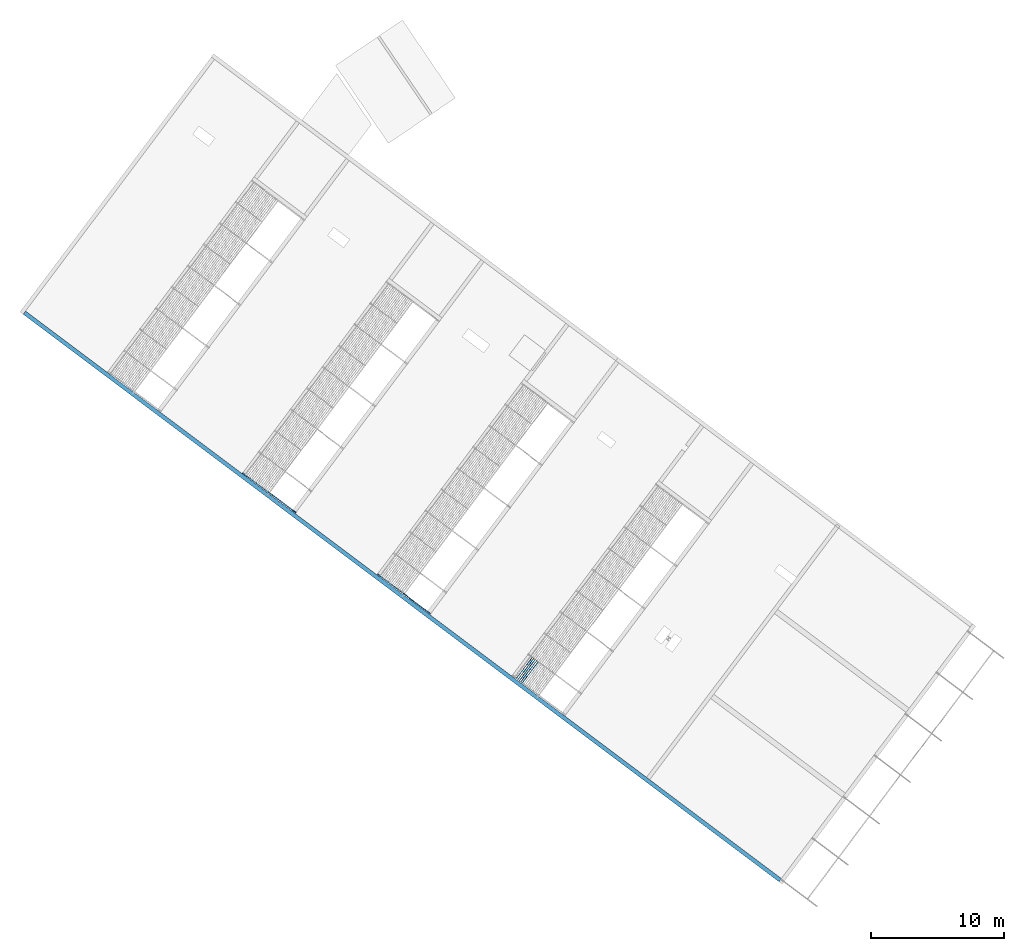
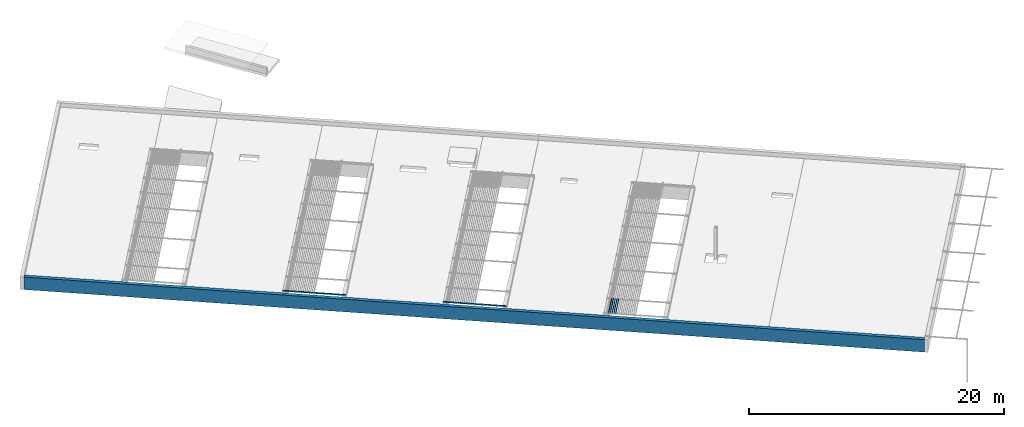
# One storey, part 2 of 95: 8 beams.
"""IFC2X3 building model written with IfcOpenShell, lengths in metres."""

from ifc_helpers import new_model, entity, si_unit, converted_unit, derived_unit, direction, frame, frame_2d, origin, place, context, subcontext, project, spatial, polyline, circle_curve, parameter, trimmed, segment, composite_curve, rectangle, outline, extrude, material, type_object, element, save


model = new_model("IFC2X3")

# Units and contexts
model_context = context("Model", 3, precision=1e-05, world=origin(), true_north=direction((6.123031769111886e-17, 1.0)))
body_context = subcontext(model_context, "Body", "Model", "MODEL_VIEW")
ifc_project = project(units=[si_unit("LENGTHUNIT", "METRE"), si_unit("AREAUNIT", "SQUARE_METRE"), si_unit("VOLUMEUNIT", "CUBIC_METRE"), converted_unit("PLANEANGLEUNIT", "DEGREE", entity("IfcRatioMeasure", 0.017453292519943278), si_unit("PLANEANGLEUNIT", "RADIAN"), dimensions=[0, 0, 0, 0, 0, 0, 0]), si_unit("MASSUNIT", "GRAM", prefix="KILO"), derived_unit("MASSDENSITYUNIT", [(si_unit("MASSUNIT", "GRAM", prefix="KILO"), 1), (si_unit("LENGTHUNIT", "METRE"), -3)]), derived_unit("IONCONCENTRATIONUNIT", [(si_unit("MASSUNIT", "GRAM", prefix="KILO"), 1), (si_unit("LENGTHUNIT", "METRE"), -3)]), derived_unit("MOMENTOFINERTIAUNIT", [(si_unit("LENGTHUNIT", "METRE"), 4)]), si_unit("TIMEUNIT", "SECOND"), si_unit("FREQUENCYUNIT", "HERTZ"), si_unit("THERMODYNAMICTEMPERATUREUNIT", "DEGREE_CELSIUS"), derived_unit("THERMALTRANSMITTANCEUNIT", [(si_unit("MASSUNIT", "GRAM", prefix="KILO"), 1), (si_unit("THERMODYNAMICTEMPERATUREUNIT", "KELVIN"), -1), (si_unit("TIMEUNIT", "SECOND"), -3)]), derived_unit("THERMALCONDUCTANCEUNIT", [(si_unit("MASSUNIT", "GRAM", prefix="KILO"), 1), (si_unit("THERMODYNAMICTEMPERATUREUNIT", "KELVIN"), -1), (si_unit("TIMEUNIT", "SECOND"), -3), (si_unit("LENGTHUNIT", "METRE"), 1)]), derived_unit("VOLUMETRICFLOWRATEUNIT", [(si_unit("LENGTHUNIT", "METRE"), 3), (si_unit("TIMEUNIT", "SECOND"), -1)]), derived_unit("MASSFLOWRATEUNIT", [(si_unit("MASSUNIT", "GRAM", prefix="KILO"), 1), (si_unit("TIMEUNIT", "SECOND"), -1)]), derived_unit("ROTATIONALFREQUENCYUNIT", [(si_unit("TIMEUNIT", "SECOND"), -1)]), si_unit("ELECTRICCURRENTUNIT", "AMPERE"), si_unit("ELECTRICVOLTAGEUNIT", "VOLT"), si_unit("POWERUNIT", "WATT"), si_unit("FORCEUNIT", "NEWTON", prefix="KILO"), si_unit("ILLUMINANCEUNIT", "LUX"), si_unit("LUMINOUSFLUXUNIT", "LUMEN"), si_unit("LUMINOUSINTENSITYUNIT", "CANDELA"), derived_unit("USERDEFINED", [(si_unit("MASSUNIT", "GRAM", prefix="KILO"), -1), (si_unit("LENGTHUNIT", "METRE"), -2), (si_unit("TIMEUNIT", "SECOND"), 3), (si_unit("LUMINOUSFLUXUNIT", "LUMEN"), 1)]), derived_unit("USERDEFINED", [(si_unit("MASSUNIT", "GRAM", prefix="KILO"), 1), (si_unit("TIMEUNIT", "SECOND"), -3), (si_unit("LENGTHUNIT", "METRE"), 3), (si_unit("ELECTRICCURRENTUNIT", "AMPERE"), -2)]), derived_unit("SOUNDPOWERUNIT", [(si_unit("MASSUNIT", "GRAM", prefix="KILO"), 1), (si_unit("TIMEUNIT", "SECOND"), -3), (si_unit("LENGTHUNIT", "METRE"), 2)]), derived_unit("SOUNDPRESSUREUNIT", [(si_unit("MASSUNIT", "GRAM", prefix="KILO"), 1), (si_unit("LENGTHUNIT", "METRE"), -1), (si_unit("TIMEUNIT", "SECOND"), -2)]), derived_unit("LINEARVELOCITYUNIT", [(si_unit("LENGTHUNIT", "METRE"), 1), (si_unit("TIMEUNIT", "SECOND"), -1)]), si_unit("PRESSUREUNIT", "PASCAL"), derived_unit("USERDEFINED", [(si_unit("MASSUNIT", "GRAM", prefix="KILO"), 1), (si_unit("LENGTHUNIT", "METRE"), -2), (si_unit("TIMEUNIT", "SECOND"), -2)]), derived_unit("LINEARFORCEUNIT", [(si_unit("MASSUNIT", "GRAM", prefix="KILO"), 1), (si_unit("TIMEUNIT", "SECOND"), -2)]), derived_unit("PLANARFORCEUNIT", [(si_unit("MASSUNIT", "GRAM", prefix="KILO"), 1), (si_unit("LENGTHUNIT", "METRE"), -1), (si_unit("TIMEUNIT", "SECOND"), -2)]), derived_unit("SPECIFICHEATCAPACITYUNIT", [(si_unit("THERMODYNAMICTEMPERATUREUNIT", "KELVIN"), -1), (si_unit("LENGTHUNIT", "METRE"), 2), (si_unit("TIMEUNIT", "SECOND"), -2)]), derived_unit("HEATINGVALUEUNIT", [(si_unit("LENGTHUNIT", "METRE"), 2), (si_unit("TIMEUNIT", "SECOND"), -2)]), derived_unit("VAPORPERMEABILITYUNIT", [(si_unit("LENGTHUNIT", "METRE"), -1), (si_unit("TIMEUNIT", "SECOND"), 1)]), derived_unit("DYNAMICVISCOSITYUNIT", [(si_unit("MASSUNIT", "GRAM", prefix="KILO"), 1), (si_unit("TIMEUNIT", "SECOND"), -1), (si_unit("LENGTHUNIT", "METRE"), -1)]), derived_unit("THERMALEXPANSIONCOEFFICIENTUNIT", [(si_unit("THERMODYNAMICTEMPERATUREUNIT", "KELVIN"), -1)]), derived_unit("MODULUSOFELASTICITYUNIT", [(si_unit("MASSUNIT", "GRAM", prefix="KILO"), 1), (si_unit("LENGTHUNIT", "METRE"), -1), (si_unit("TIMEUNIT", "SECOND"), -2)]), derived_unit("ISOTHERMALMOISTURECAPACITYUNIT", [(si_unit("LENGTHUNIT", "METRE"), 3), (si_unit("MASSUNIT", "GRAM", prefix="KILO"), -1)]), derived_unit("MOISTUREDIFFUSIVITYUNIT", [(si_unit("TIMEUNIT", "SECOND"), -1), (si_unit("LENGTHUNIT", "METRE"), 2)])], contexts=[model_context])

# Site, building, storey
site_placement = place(None, origin())
site = spatial("IfcSite", under=ifc_project, at=site_placement, Name="Default", CompositionType="ELEMENT")
building_placement = place(site_placement, frame((0.0, 0.0, 235.0), z_axis=(0.0, 0.0, 1.0), x_axis=(-0.7996477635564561, 0.6004693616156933, 0.0)))
building = spatial("IfcBuilding", under=site, at=building_placement, CompositionType="ELEMENT")
storey_placement = place(building_placement, frame((0.0, 0.0, 3.400000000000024)))
storey = spatial("IfcBuildingStorey", under=building, at=storey_placement, Name="PC- Coberta STR", CompositionType="ELEMENT", Elevation=3.400000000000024)

# Beams
ifc_material_1 = material(Name="_Formigó- T1- STR")
beam_type_1 = type_object("IfcBeamType", Name="STR- V- Formigó- Rectangular- T1:30x120 cm", PredefinedType="NOTDEFINED")
beam_1_placement = place(storey_placement, frame((3.0951476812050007, -18.19019175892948, 0.4)))
element("IfcBeam", 1, at=beam_1_placement, inside=storey, type_object=beam_type_1, material=ifc_material_1, Name="STR- V- Formigó- Rectangular- T1:30x120 cm", ObjectType="STR- V- Formigó- Rectangular- T1:30x120 cm", context=body_context, shape_type="SweptSolid", body=[
    extrude(rectangle(XDim=1.1999999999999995, YDim=0.30000000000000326, at=frame_2d((0.0, 2.891298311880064e-13), x_axis=(1.0, 0.0))), frame((0.14999999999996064, 0.0, -0.6000000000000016), z_axis=(1.0, 0.0, 0.0), x_axis=(0.0, 0.0, -1.0)), (0.0, 0.0, 1.0), 71.19999999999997),
])
ifc_material_2 = material(Name="_Acer- STR")
beam_type_2 = type_object("IfcBeamType", Name="STR- V- Acer- RHS- Rectangular- T1:120x60RHS", PredefinedType="NOTDEFINED")
beam_2_placement = place(storey_placement, frame((36.34514768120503, -18.446787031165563, 0.49840472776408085), z_axis=(0.0, 0.0, 1.0), x_axis=(-1.0, 0.0, 0.0)))
element("IfcBeam", 2, at=beam_2_placement, inside=storey, type_object=beam_type_2, material=ifc_material_2, Name="STR- V- Acer- RHS- Rectangular- T1:120x60RHS", ObjectType="STR- V- Acer- RHS- Rectangular- T1:120x60RHS", context=body_context, shape_type="SweptSolid", body=[
    extrude(outline(composite_curve([segment(trimmed(circle_curve(frame_2d((-0.02200000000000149, -0.05200000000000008), x_axis=(1.0, 0.0)), 0.008), [parameter(180.0000000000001)], [parameter(269.99999999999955)], True, "PARAMETER"), True, "CONTINUOUS"), segment(polyline([(-0.02200000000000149, -0.05999999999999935), (0.021999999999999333, -0.05999999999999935)]), True, "CONTINUOUS"), segment(trimmed(circle_curve(frame_2d((0.021999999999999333, -0.05200000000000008), x_axis=(1.0, 0.0)), 0.008), [parameter(269.99999999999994)], [parameter(5.088887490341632e-14)], True, "PARAMETER"), True, "CONTINUOUS"), segment(polyline([(0.029999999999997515, -0.05199999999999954), (0.029999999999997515, 0.052000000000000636)]), True, "CONTINUOUS"), segment(trimmed(circle_curve(frame_2d((0.021999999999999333, 0.052000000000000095), x_axis=(1.0, 0.0)), 0.008), [parameter(359.99999999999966)], [parameter(89.99999999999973)], True, "PARAMETER"), True, "CONTINUOUS"), segment(polyline([(0.021999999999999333, 0.06000000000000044), (-0.02200000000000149, 0.06000000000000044)]), True, "CONTINUOUS"), segment(trimmed(circle_curve(frame_2d((-0.02200000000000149, 0.052000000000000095), x_axis=(1.0, 0.0)), 0.008), [parameter(90.00000000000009)], [parameter(180.00000000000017)], True, "PARAMETER"), True, "CONTINUOUS"), segment(polyline([(-0.03000000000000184, 0.052000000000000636), (-0.03000000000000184, -0.05199999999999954)]), True, "CONTINUOUS")], self_intersect=False), holes=[composite_curve([segment(polyline([(0.021999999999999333, -0.056000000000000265), (-0.02200000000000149, -0.056000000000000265)]), True, "CONTINUOUS"), segment(trimmed(circle_curve(frame_2d((-0.02200000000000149, -0.05200000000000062), x_axis=(1.0, 0.0)), 0.004), [parameter(179.99999999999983)], [parameter(269.9999999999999)], True, "PARAMETER"), False, "CONTINUOUS"), segment(polyline([(-0.026000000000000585, -0.05200000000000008), (-0.026000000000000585, 0.051999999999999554)]), True, "CONTINUOUS"), segment(trimmed(circle_curve(frame_2d((-0.02200000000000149, 0.05199999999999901), x_axis=(1.0, 0.0)), 0.004), [parameter(90.00000000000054)], [parameter(180.00000000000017)], True, "PARAMETER"), False, "CONTINUOUS"), segment(polyline([(-0.02200000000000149, 0.055999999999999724), (0.021999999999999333, 0.055999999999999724)]), True, "CONTINUOUS"), segment(trimmed(circle_curve(frame_2d((0.021999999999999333, 0.05199999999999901), x_axis=(1.0, 0.0)), 0.004), [parameter(0.0)], [parameter(90.00000000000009)], True, "PARAMETER"), False, "CONTINUOUS"), segment(polyline([(0.025999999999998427, 0.051999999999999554), (0.025999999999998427, -0.05200000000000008)]), True, "CONTINUOUS"), segment(trimmed(circle_curve(frame_2d((0.021999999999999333, -0.05200000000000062), x_axis=(1.0, 0.0)), 0.004), [parameter(270.00000000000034)], [parameter(3.5622212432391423e-13)], True, "PARAMETER"), False, "CONTINUOUS")], self_intersect=False)]), frame((-5.0, -0.03159527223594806, 0.061595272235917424), z_axis=(1.0, 0.0, 0.0), x_axis=(0.0, -1.0, 0.0)), (0.0, 0.0, 1.0), 4.999999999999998),
])
beam_3_placement = place(storey_placement, frame((49.04514768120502, -18.44678703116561, 0.49840472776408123), z_axis=(0.0, 0.0, 1.0), x_axis=(-1.0, 0.0, 0.0)))
element("IfcBeam", 3, at=beam_3_placement, inside=storey, type_object=beam_type_2, material=ifc_material_2, Name="STR- V- Acer- RHS- Rectangular- T1:120x60RHS", ObjectType="STR- V- Acer- RHS- Rectangular- T1:120x60RHS", context=body_context, shape_type="SweptSolid", body=[
    extrude(outline(composite_curve([segment(trimmed(circle_curve(frame_2d((-0.021999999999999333, -0.05200000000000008), x_axis=(1.0, 0.0)), 0.008), [parameter(180.0000000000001)], [parameter(269.99999999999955)], True, "PARAMETER"), True, "CONTINUOUS"), segment(polyline([(-0.021999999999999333, -0.05999999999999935), (0.022000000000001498, -0.05999999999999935)]), True, "CONTINUOUS"), segment(trimmed(circle_curve(frame_2d((0.022000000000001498, -0.05200000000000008), x_axis=(1.0, 0.0)), 0.008), [parameter(269.99999999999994)], [parameter(5.088887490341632e-14)], True, "PARAMETER"), True, "CONTINUOUS"), segment(polyline([(0.02999999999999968, -0.05199999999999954), (0.02999999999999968, 0.052000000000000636)]), True, "CONTINUOUS"), segment(trimmed(circle_curve(frame_2d((0.022000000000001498, 0.052000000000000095), x_axis=(1.0, 0.0)), 0.008), [parameter(359.99999999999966)], [parameter(89.99999999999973)], True, "PARAMETER"), True, "CONTINUOUS"), segment(polyline([(0.022000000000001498, 0.06000000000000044), (-0.021999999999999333, 0.06000000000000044)]), True, "CONTINUOUS"), segment(trimmed(circle_curve(frame_2d((-0.021999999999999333, 0.052000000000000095), x_axis=(1.0, 0.0)), 0.008), [parameter(90.00000000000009)], [parameter(180.00000000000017)], True, "PARAMETER"), True, "CONTINUOUS"), segment(polyline([(-0.029999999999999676, 0.052000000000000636), (-0.029999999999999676, -0.05199999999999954)]), True, "CONTINUOUS")], self_intersect=False), holes=[composite_curve([segment(polyline([(0.022000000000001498, -0.056000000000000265), (-0.021999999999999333, -0.056000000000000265)]), True, "CONTINUOUS"), segment(trimmed(circle_curve(frame_2d((-0.021999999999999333, -0.05200000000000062), x_axis=(1.0, 0.0)), 0.004), [parameter(179.99999999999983)], [parameter(269.9999999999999)], True, "PARAMETER"), False, "CONTINUOUS"), segment(polyline([(-0.02599999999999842, -0.05200000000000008), (-0.02599999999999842, 0.051999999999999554)]), True, "CONTINUOUS"), segment(trimmed(circle_curve(frame_2d((-0.021999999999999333, 0.05199999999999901), x_axis=(1.0, 0.0)), 0.004), [parameter(90.00000000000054)], [parameter(180.00000000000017)], True, "PARAMETER"), False, "CONTINUOUS"), segment(polyline([(-0.021999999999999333, 0.055999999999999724), (0.022000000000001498, 0.055999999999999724)]), True, "CONTINUOUS"), segment(trimmed(circle_curve(frame_2d((0.022000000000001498, 0.05199999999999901), x_axis=(1.0, 0.0)), 0.004), [parameter(0.0)], [parameter(90.00000000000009)], True, "PARAMETER"), False, "CONTINUOUS"), segment(polyline([(0.026000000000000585, 0.051999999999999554), (0.026000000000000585, -0.05200000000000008)]), True, "CONTINUOUS"), segment(trimmed(circle_curve(frame_2d((0.022000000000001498, -0.05200000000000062), x_axis=(1.0, 0.0)), 0.004), [parameter(270.00000000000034)], [parameter(3.5622212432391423e-13)], True, "PARAMETER"), False, "CONTINUOUS")], self_intersect=False)]), frame((-5.0, -0.0315952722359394, 0.061595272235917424), z_axis=(1.0, 0.0, 0.0), x_axis=(0.0, -1.0, 0.0)), (0.0, 0.0, 1.0), 5.000000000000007),
])
beam_type_3 = type_object("IfcBeamType", Name="STR- V- Acer- RHS- Rectangular- T1:120x40RHS -", PredefinedType="NOTDEFINED")
beam_4_placement = place(storey_placement, frame((28.233552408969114, -20.385189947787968, 0.49840472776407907), z_axis=(0.0, 0.0, 1.0), x_axis=(0.0, -1.0, 0.0)))
element("IfcBeam", 4, at=beam_4_placement, inside=storey, type_object=beam_type_3, material=ifc_material_2, Name="STR- V- Acer- RHS- Rectangular- T1:120x40RHS -", ObjectType="STR- V- Acer- RHS- Rectangular- T1:120x40RHS -", context=body_context, shape_type="SweptSolid", body=[
    extrude(outline(composite_curve([segment(trimmed(circle_curve(frame_2d((-0.01400000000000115, -0.05400000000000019), x_axis=(1.0, 0.0)), 0.006), [parameter(180.0000000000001)], [parameter(269.99999999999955)], True, "PARAMETER"), True, "CONTINUOUS"), segment(polyline([(-0.01400000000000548, -0.06000000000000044), (0.013999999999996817, -0.06000000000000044)]), True, "CONTINUOUS"), segment(trimmed(circle_curve(frame_2d((0.013999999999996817, -0.05400000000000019), x_axis=(1.0, 0.0)), 0.006), [parameter(269.99999999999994)], [parameter(1.0177774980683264e-13)], True, "PARAMETER"), True, "CONTINUOUS"), segment(polyline([(0.019999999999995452, -0.05400000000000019), (0.019999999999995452, 0.05399999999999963)]), True, "CONTINUOUS"), segment(trimmed(circle_curve(frame_2d((0.013999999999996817, 0.05399999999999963), x_axis=(1.0, 0.0)), 0.006), [parameter(359.9999999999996)], [parameter(89.99999999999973)], True, "PARAMETER"), True, "CONTINUOUS"), segment(polyline([(0.013999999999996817, 0.05999999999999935), (-0.01400000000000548, 0.05999999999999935)]), True, "CONTINUOUS"), segment(trimmed(circle_curve(frame_2d((-0.01400000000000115, 0.05399999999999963), x_axis=(1.0, 0.0)), 0.006), [parameter(90.00000000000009)], [parameter(180.00000000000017)], True, "PARAMETER"), True, "CONTINUOUS"), segment(polyline([(-0.02000000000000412, 0.05399999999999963), (-0.02000000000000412, -0.05400000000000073)]), True, "CONTINUOUS")], self_intersect=False), holes=[composite_curve([segment(polyline([(0.013999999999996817, -0.05700000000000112), (-0.01400000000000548, -0.05700000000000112)]), True, "CONTINUOUS"), segment(trimmed(circle_curve(frame_2d((-0.01400000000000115, -0.05400000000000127), x_axis=(1.0, 0.0)), 0.003), [parameter(179.99999999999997)], [parameter(269.9999999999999)], True, "PARAMETER"), False, "CONTINUOUS"), segment(polyline([(-0.017000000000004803, -0.05400000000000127), (-0.017000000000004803, 0.05399999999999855)]), True, "CONTINUOUS"), segment(trimmed(circle_curve(frame_2d((-0.01400000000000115, 0.05399999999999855), x_axis=(1.0, 0.0)), 0.003), [parameter(90.00000000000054)], [parameter(180.0000000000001)], True, "PARAMETER"), False, "CONTINUOUS"), segment(polyline([(-0.01400000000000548, 0.05699999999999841), (0.013999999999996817, 0.05699999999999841)]), True, "CONTINUOUS"), segment(trimmed(circle_curve(frame_2d((0.013999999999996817, 0.05399999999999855), x_axis=(1.0, 0.0)), 0.003), [parameter(0.0)], [parameter(90.00000000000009)], True, "PARAMETER"), False, "CONTINUOUS"), segment(polyline([(0.016999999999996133, 0.05399999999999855), (0.016999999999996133, -0.05400000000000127)]), True, "CONTINUOUS"), segment(trimmed(circle_curve(frame_2d((0.013999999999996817, -0.05400000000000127), x_axis=(1.0, 0.0)), 0.003), [parameter(270.00000000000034)], [parameter(3.053332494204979e-13)], True, "PARAMETER"), False, "CONTINUOUS")], self_intersect=False)]), frame((-1.940000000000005, 0.02159527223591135, 0.06159527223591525), z_axis=(1.0, 0.0, 0.0), x_axis=(0.0, -1.0, 0.0)), (0.0, 0.0, 1.0), 1.9400000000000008),
])
beam_5_placement = place(storey_placement, frame((28.093552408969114, -20.385189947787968, 0.49840472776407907), z_axis=(0.0, 0.0, 1.0), x_axis=(0.0, -1.0, 0.0)))
element("IfcBeam", 5, at=beam_5_placement, inside=storey, type_object=beam_type_3, material=ifc_material_2, Name="STR- V- Acer- RHS- Rectangular- T1:120x40RHS -", ObjectType="STR- V- Acer- RHS- Rectangular- T1:120x40RHS -", context=body_context, shape_type="SweptSolid", body=[
    extrude(outline(composite_curve([segment(trimmed(circle_curve(frame_2d((-0.01400000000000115, -0.05400000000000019), x_axis=(1.0, 0.0)), 0.006), [parameter(180.0000000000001)], [parameter(269.99999999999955)], True, "PARAMETER"), True, "CONTINUOUS"), segment(polyline([(-0.01400000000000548, -0.06000000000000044), (0.013999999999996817, -0.06000000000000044)]), True, "CONTINUOUS"), segment(trimmed(circle_curve(frame_2d((0.013999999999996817, -0.05400000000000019), x_axis=(1.0, 0.0)), 0.006), [parameter(269.99999999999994)], [parameter(1.0177774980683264e-13)], True, "PARAMETER"), True, "CONTINUOUS"), segment(polyline([(0.019999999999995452, -0.05400000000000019), (0.019999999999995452, 0.05399999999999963)]), True, "CONTINUOUS"), segment(trimmed(circle_curve(frame_2d((0.013999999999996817, 0.05399999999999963), x_axis=(1.0, 0.0)), 0.006), [parameter(359.9999999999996)], [parameter(89.99999999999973)], True, "PARAMETER"), True, "CONTINUOUS"), segment(polyline([(0.013999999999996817, 0.05999999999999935), (-0.01400000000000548, 0.05999999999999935)]), True, "CONTINUOUS"), segment(trimmed(circle_curve(frame_2d((-0.01400000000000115, 0.05399999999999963), x_axis=(1.0, 0.0)), 0.006), [parameter(90.00000000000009)], [parameter(180.00000000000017)], True, "PARAMETER"), True, "CONTINUOUS"), segment(polyline([(-0.02000000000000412, 0.05399999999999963), (-0.02000000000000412, -0.05400000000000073)]), True, "CONTINUOUS")], self_intersect=False), holes=[composite_curve([segment(polyline([(0.013999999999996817, -0.05700000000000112), (-0.01400000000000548, -0.05700000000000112)]), True, "CONTINUOUS"), segment(trimmed(circle_curve(frame_2d((-0.01400000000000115, -0.05400000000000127), x_axis=(1.0, 0.0)), 0.003), [parameter(179.99999999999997)], [parameter(269.9999999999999)], True, "PARAMETER"), False, "CONTINUOUS"), segment(polyline([(-0.017000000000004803, -0.05400000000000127), (-0.017000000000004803, 0.05399999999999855)]), True, "CONTINUOUS"), segment(trimmed(circle_curve(frame_2d((-0.01400000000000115, 0.05399999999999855), x_axis=(1.0, 0.0)), 0.003), [parameter(90.00000000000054)], [parameter(180.0000000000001)], True, "PARAMETER"), False, "CONTINUOUS"), segment(polyline([(-0.01400000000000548, 0.05699999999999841), (0.013999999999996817, 0.05699999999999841)]), True, "CONTINUOUS"), segment(trimmed(circle_curve(frame_2d((0.013999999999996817, 0.05399999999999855), x_axis=(1.0, 0.0)), 0.003), [parameter(0.0)], [parameter(90.00000000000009)], True, "PARAMETER"), False, "CONTINUOUS"), segment(polyline([(0.016999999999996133, 0.05399999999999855), (0.016999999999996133, -0.05400000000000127)]), True, "CONTINUOUS"), segment(trimmed(circle_curve(frame_2d((0.013999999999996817, -0.05400000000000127), x_axis=(1.0, 0.0)), 0.003), [parameter(270.00000000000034)], [parameter(3.053332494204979e-13)], True, "PARAMETER"), False, "CONTINUOUS")], self_intersect=False)]), frame((-1.940000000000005, 0.02159527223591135, 0.06159527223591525), z_axis=(1.0, 0.0, 0.0), x_axis=(0.0, -1.0, 0.0)), (0.0, 0.0, 1.0), 1.9400000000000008),
])
beam_6_placement = place(storey_placement, frame((27.953552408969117, -20.385189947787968, 0.49840472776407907), z_axis=(0.0, 0.0, 1.0), x_axis=(0.0, -1.0, 0.0)))
element("IfcBeam", 6, at=beam_6_placement, inside=storey, type_object=beam_type_3, material=ifc_material_2, Name="STR- V- Acer- RHS- Rectangular- T1:120x40RHS -", ObjectType="STR- V- Acer- RHS- Rectangular- T1:120x40RHS -", context=body_context, shape_type="SweptSolid", body=[
    extrude(outline(composite_curve([segment(trimmed(circle_curve(frame_2d((-0.013999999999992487, -0.05400000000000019), x_axis=(1.0, 0.0)), 0.006), [parameter(180.0000000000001)], [parameter(269.99999999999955)], True, "PARAMETER"), True, "CONTINUOUS"), segment(polyline([(-0.013999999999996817, -0.06000000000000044), (0.01400000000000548, -0.06000000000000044)]), True, "CONTINUOUS"), segment(trimmed(circle_curve(frame_2d((0.01400000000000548, -0.05400000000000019), x_axis=(1.0, 0.0)), 0.006), [parameter(269.99999999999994)], [parameter(1.0177774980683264e-13)], True, "PARAMETER"), True, "CONTINUOUS"), segment(polyline([(0.020000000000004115, -0.05400000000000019), (0.020000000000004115, 0.05399999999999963)]), True, "CONTINUOUS"), segment(trimmed(circle_curve(frame_2d((0.01400000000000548, 0.05399999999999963), x_axis=(1.0, 0.0)), 0.006), [parameter(359.9999999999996)], [parameter(89.99999999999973)], True, "PARAMETER"), True, "CONTINUOUS"), segment(polyline([(0.01400000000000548, 0.05999999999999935), (-0.013999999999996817, 0.05999999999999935)]), True, "CONTINUOUS"), segment(trimmed(circle_curve(frame_2d((-0.013999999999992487, 0.05399999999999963), x_axis=(1.0, 0.0)), 0.006), [parameter(90.00000000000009)], [parameter(180.00000000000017)], True, "PARAMETER"), True, "CONTINUOUS"), segment(polyline([(-0.019999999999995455, 0.05399999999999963), (-0.019999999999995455, -0.05400000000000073)]), True, "CONTINUOUS")], self_intersect=False), holes=[composite_curve([segment(polyline([(0.01400000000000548, -0.05700000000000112), (-0.013999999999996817, -0.05700000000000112)]), True, "CONTINUOUS"), segment(trimmed(circle_curve(frame_2d((-0.013999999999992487, -0.05400000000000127), x_axis=(1.0, 0.0)), 0.003), [parameter(179.99999999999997)], [parameter(269.9999999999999)], True, "PARAMETER"), False, "CONTINUOUS"), segment(polyline([(-0.01699999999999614, -0.05400000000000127), (-0.01699999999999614, 0.05399999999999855)]), True, "CONTINUOUS"), segment(trimmed(circle_curve(frame_2d((-0.013999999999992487, 0.05399999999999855), x_axis=(1.0, 0.0)), 0.003), [parameter(90.00000000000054)], [parameter(180.0000000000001)], True, "PARAMETER"), False, "CONTINUOUS"), segment(polyline([(-0.013999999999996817, 0.05699999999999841), (0.01400000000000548, 0.05699999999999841)]), True, "CONTINUOUS"), segment(trimmed(circle_curve(frame_2d((0.01400000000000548, 0.05399999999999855), x_axis=(1.0, 0.0)), 0.003), [parameter(0.0)], [parameter(90.00000000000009)], True, "PARAMETER"), False, "CONTINUOUS"), segment(polyline([(0.017000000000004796, 0.05399999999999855), (0.017000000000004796, -0.05400000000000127)]), True, "CONTINUOUS"), segment(trimmed(circle_curve(frame_2d((0.01400000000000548, -0.05400000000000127), x_axis=(1.0, 0.0)), 0.003), [parameter(270.00000000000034)], [parameter(3.053332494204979e-13)], True, "PARAMETER"), False, "CONTINUOUS")], self_intersect=False)]), frame((-1.940000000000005, 0.021595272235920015, 0.06159527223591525), z_axis=(1.0, 0.0, 0.0), x_axis=(0.0, -1.0, 0.0)), (0.0, 0.0, 1.0), 1.9400000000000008),
])
beam_7_placement = place(storey_placement, frame((27.813552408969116, -20.385189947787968, 0.49840472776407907), z_axis=(0.0, 0.0, 1.0), x_axis=(0.0, -1.0, 0.0)))
element("IfcBeam", 7, at=beam_7_placement, inside=storey, type_object=beam_type_3, material=ifc_material_2, Name="STR- V- Acer- RHS- Rectangular- T1:120x40RHS -", ObjectType="STR- V- Acer- RHS- Rectangular- T1:120x40RHS -", context=body_context, shape_type="SweptSolid", body=[
    extrude(outline(composite_curve([segment(trimmed(circle_curve(frame_2d((-0.013999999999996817, -0.05400000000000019), x_axis=(1.0, 0.0)), 0.006), [parameter(180.0000000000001)], [parameter(269.99999999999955)], True, "PARAMETER"), True, "CONTINUOUS"), segment(polyline([(-0.014000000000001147, -0.06000000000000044), (0.01400000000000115, -0.06000000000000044)]), True, "CONTINUOUS"), segment(trimmed(circle_curve(frame_2d((0.01400000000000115, -0.05400000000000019), x_axis=(1.0, 0.0)), 0.006), [parameter(269.99999999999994)], [parameter(1.0177774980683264e-13)], True, "PARAMETER"), True, "CONTINUOUS"), segment(polyline([(0.019999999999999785, -0.05400000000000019), (0.019999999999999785, 0.05399999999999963)]), True, "CONTINUOUS"), segment(trimmed(circle_curve(frame_2d((0.01400000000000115, 0.05399999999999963), x_axis=(1.0, 0.0)), 0.006), [parameter(359.9999999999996)], [parameter(89.99999999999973)], True, "PARAMETER"), True, "CONTINUOUS"), segment(polyline([(0.01400000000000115, 0.05999999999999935), (-0.014000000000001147, 0.05999999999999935)]), True, "CONTINUOUS"), segment(trimmed(circle_curve(frame_2d((-0.013999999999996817, 0.05399999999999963), x_axis=(1.0, 0.0)), 0.006), [parameter(90.00000000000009)], [parameter(180.00000000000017)], True, "PARAMETER"), True, "CONTINUOUS"), segment(polyline([(-0.019999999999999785, 0.05399999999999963), (-0.019999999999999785, -0.05400000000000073)]), True, "CONTINUOUS")], self_intersect=False), holes=[composite_curve([segment(polyline([(0.01400000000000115, -0.05700000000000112), (-0.014000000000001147, -0.05700000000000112)]), True, "CONTINUOUS"), segment(trimmed(circle_curve(frame_2d((-0.013999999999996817, -0.05400000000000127), x_axis=(1.0, 0.0)), 0.003), [parameter(179.99999999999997)], [parameter(269.9999999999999)], True, "PARAMETER"), False, "CONTINUOUS"), segment(polyline([(-0.01700000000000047, -0.05400000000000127), (-0.01700000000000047, 0.05399999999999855)]), True, "CONTINUOUS"), segment(trimmed(circle_curve(frame_2d((-0.013999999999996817, 0.05399999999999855), x_axis=(1.0, 0.0)), 0.003), [parameter(90.00000000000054)], [parameter(180.0000000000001)], True, "PARAMETER"), False, "CONTINUOUS"), segment(polyline([(-0.014000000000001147, 0.05699999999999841), (0.01400000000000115, 0.05699999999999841)]), True, "CONTINUOUS"), segment(trimmed(circle_curve(frame_2d((0.01400000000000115, 0.05399999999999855), x_axis=(1.0, 0.0)), 0.003), [parameter(0.0)], [parameter(90.00000000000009)], True, "PARAMETER"), False, "CONTINUOUS"), segment(polyline([(0.017000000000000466, 0.05399999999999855), (0.017000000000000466, -0.05400000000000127)]), True, "CONTINUOUS"), segment(trimmed(circle_curve(frame_2d((0.01400000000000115, -0.05400000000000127), x_axis=(1.0, 0.0)), 0.003), [parameter(270.00000000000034)], [parameter(3.053332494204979e-13)], True, "PARAMETER"), False, "CONTINUOUS")], self_intersect=False)]), frame((-1.940000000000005, 0.021595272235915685, 0.06159527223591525), z_axis=(1.0, 0.0, 0.0), x_axis=(0.0, -1.0, 0.0)), (0.0, 0.0, 1.0), 1.9400000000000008),
])
beam_8_placement = place(storey_placement, frame((27.67355240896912, -20.385189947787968, 0.49840472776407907), z_axis=(0.0, 0.0, 1.0), x_axis=(0.0, -1.0, 0.0)))
element("IfcBeam", 8, at=beam_8_placement, inside=storey, type_object=beam_type_3, material=ifc_material_2, Name="STR- V- Acer- RHS- Rectangular- T1:120x40RHS -", ObjectType="STR- V- Acer- RHS- Rectangular- T1:120x40RHS -", context=body_context, shape_type="SweptSolid", body=[
    extrude(outline(composite_curve([segment(trimmed(circle_curve(frame_2d((-0.013999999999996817, -0.05400000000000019), x_axis=(1.0, 0.0)), 0.006), [parameter(180.0000000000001)], [parameter(269.99999999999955)], True, "PARAMETER"), True, "CONTINUOUS"), segment(polyline([(-0.014000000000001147, -0.06000000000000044), (0.01400000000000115, -0.06000000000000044)]), True, "CONTINUOUS"), segment(trimmed(circle_curve(frame_2d((0.01400000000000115, -0.05400000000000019), x_axis=(1.0, 0.0)), 0.006), [parameter(269.99999999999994)], [parameter(1.0177774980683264e-13)], True, "PARAMETER"), True, "CONTINUOUS"), segment(polyline([(0.019999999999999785, -0.05400000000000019), (0.019999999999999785, 0.05399999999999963)]), True, "CONTINUOUS"), segment(trimmed(circle_curve(frame_2d((0.01400000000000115, 0.05399999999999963), x_axis=(1.0, 0.0)), 0.006), [parameter(359.9999999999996)], [parameter(89.99999999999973)], True, "PARAMETER"), True, "CONTINUOUS"), segment(polyline([(0.01400000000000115, 0.05999999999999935), (-0.014000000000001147, 0.05999999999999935)]), True, "CONTINUOUS"), segment(trimmed(circle_curve(frame_2d((-0.013999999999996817, 0.05399999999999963), x_axis=(1.0, 0.0)), 0.006), [parameter(90.00000000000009)], [parameter(180.00000000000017)], True, "PARAMETER"), True, "CONTINUOUS"), segment(polyline([(-0.019999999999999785, 0.05399999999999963), (-0.019999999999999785, -0.05400000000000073)]), True, "CONTINUOUS")], self_intersect=False), holes=[composite_curve([segment(polyline([(0.01400000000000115, -0.05700000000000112), (-0.014000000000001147, -0.05700000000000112)]), True, "CONTINUOUS"), segment(trimmed(circle_curve(frame_2d((-0.013999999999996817, -0.05400000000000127), x_axis=(1.0, 0.0)), 0.003), [parameter(179.99999999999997)], [parameter(269.9999999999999)], True, "PARAMETER"), False, "CONTINUOUS"), segment(polyline([(-0.01700000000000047, -0.05400000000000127), (-0.01700000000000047, 0.05399999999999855)]), True, "CONTINUOUS"), segment(trimmed(circle_curve(frame_2d((-0.013999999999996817, 0.05399999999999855), x_axis=(1.0, 0.0)), 0.003), [parameter(90.00000000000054)], [parameter(180.0000000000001)], True, "PARAMETER"), False, "CONTINUOUS"), segment(polyline([(-0.014000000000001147, 0.05699999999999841), (0.01400000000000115, 0.05699999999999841)]), True, "CONTINUOUS"), segment(trimmed(circle_curve(frame_2d((0.01400000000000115, 0.05399999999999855), x_axis=(1.0, 0.0)), 0.003), [parameter(0.0)], [parameter(90.00000000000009)], True, "PARAMETER"), False, "CONTINUOUS"), segment(polyline([(0.017000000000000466, 0.05399999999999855), (0.017000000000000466, -0.05400000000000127)]), True, "CONTINUOUS"), segment(trimmed(circle_curve(frame_2d((0.01400000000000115, -0.05400000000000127), x_axis=(1.0, 0.0)), 0.003), [parameter(270.00000000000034)], [parameter(3.053332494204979e-13)], True, "PARAMETER"), False, "CONTINUOUS")], self_intersect=False)]), frame((-1.940000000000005, 0.021595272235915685, 0.06159527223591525), z_axis=(1.0, 0.0, 0.0), x_axis=(0.0, -1.0, 0.0)), (0.0, 0.0, 1.0), 1.9400000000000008),
])

save(model, "model.ifc")
